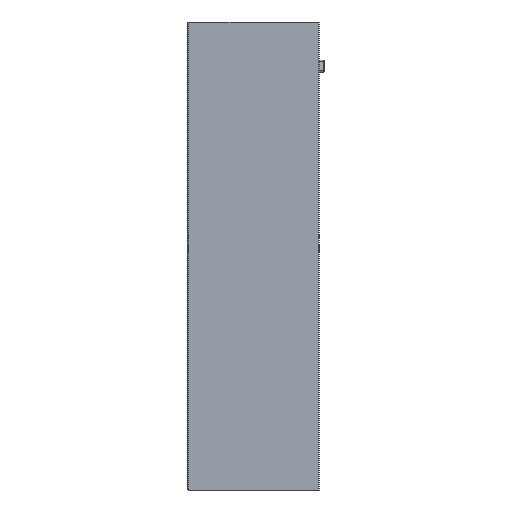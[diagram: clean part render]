
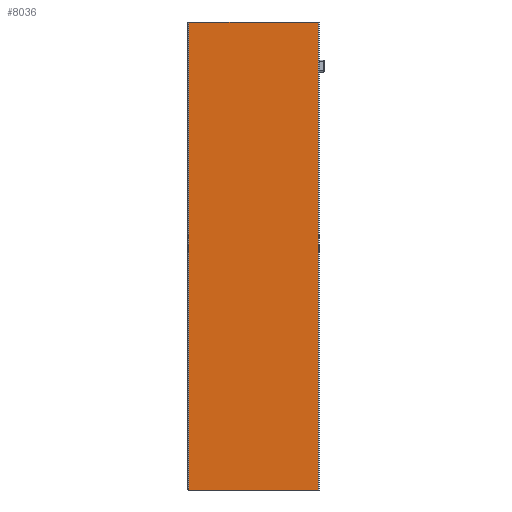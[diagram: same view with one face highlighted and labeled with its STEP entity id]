
A CAD part, left-side view. The second image highlights one B-rep face of the part: STEP entity #8036.
In plain terms, the highlighted planar face has unit normal (-1, 0, 0).
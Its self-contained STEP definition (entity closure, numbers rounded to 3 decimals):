
#4 = CARTESIAN_POINT ( 'NONE',  ( -12.5, 93.8, -449. ) ) ;
#264 = DIRECTION ( 'NONE',  ( 0., 0., 1. ) ) ;
#277 = CARTESIAN_POINT ( 'NONE',  ( -12.5, -30.66, 0. ) ) ;
#530 = VECTOR ( 'NONE', #12093, 1000. ) ;
#814 = CARTESIAN_POINT ( 'NONE',  ( -12.5, 55.8, -512.455 ) ) ;
#1256 = EDGE_CURVE ( 'NONE', #7004, #7013, #5817, .T. ) ;
#1355 = ORIENTED_EDGE ( 'NONE', *, *, #11368, .F. ) ;
#1640 = EDGE_LOOP ( 'NONE', ( #7707, #1355, #3509, #10219 ) ) ;
#2177 = CARTESIAN_POINT ( 'NONE',  ( -12.5, -30.66, -449. ) ) ;
#2704 = VECTOR ( 'NONE', #4441, 1000. ) ;
#2838 = VECTOR ( 'NONE', #5104, 1000. ) ;
#3054 = EDGE_CURVE ( 'NONE', #7004, #11237, #5312, .T. ) ;
#3509 = ORIENTED_EDGE ( 'NONE', *, *, #1256, .F. ) ;
#4238 = EDGE_CURVE ( 'NONE', #11237, #8531, #5442, .T. ) ;
#4441 = DIRECTION ( 'NONE',  ( 0., -1., 0. ) ) ;
#4510 = CARTESIAN_POINT ( 'NONE',  ( -12.5, 56.8, -449. ) ) ;
#4605 = FACE_OUTER_BOUND ( 'NONE', #1640, .T. ) ;
#5104 = DIRECTION ( 'NONE',  ( 0., 0., 1. ) ) ;
#5312 = LINE ( 'NONE', #4510, #2704 ) ;
#5333 = CARTESIAN_POINT ( 'NONE',  ( -12.5, 55.8, 0. ) ) ;
#5425 = CARTESIAN_POINT ( 'NONE',  ( -12.5, -30.66, -512.455 ) ) ;
#5442 = LINE ( 'NONE', #5425, #2838 ) ;
#5769 = DIRECTION ( 'NONE',  ( -1., 0., 0. ) ) ;
#5817 = LINE ( 'NONE', #11955, #8108 ) ;
#7004 = VERTEX_POINT ( 'NONE', #4 ) ;
#7013 = VERTEX_POINT ( 'NONE', #7866 ) ;
#7707 = ORIENTED_EDGE ( 'NONE', *, *, #4238, .T. ) ;
#7761 = AXIS2_PLACEMENT_3D ( 'NONE', #814, #5769, #12508 ) ;
#7866 = CARTESIAN_POINT ( 'NONE',  ( -12.5, 93.8, 0. ) ) ;
#8036 = ADVANCED_FACE ( 'NONE', ( #4605 ), #11560, .T. ) ;
#8108 = VECTOR ( 'NONE', #264, 1000. ) ;
#8531 = VERTEX_POINT ( 'NONE', #277 ) ;
#10219 = ORIENTED_EDGE ( 'NONE', *, *, #3054, .T. ) ;
#10313 = LINE ( 'NONE', #5333, #530 ) ;
#11237 = VERTEX_POINT ( 'NONE', #2177 ) ;
#11368 = EDGE_CURVE ( 'NONE', #7013, #8531, #10313, .T. ) ;
#11560 = PLANE ( 'NONE',  #7761 ) ;
#11955 = CARTESIAN_POINT ( 'NONE',  ( -12.5, 93.8, -512.455 ) ) ;
#12093 = DIRECTION ( 'NONE',  ( 0., -1., 0. ) ) ;
#12508 = DIRECTION ( 'NONE',  ( 0., 1., 0. ) ) ;
